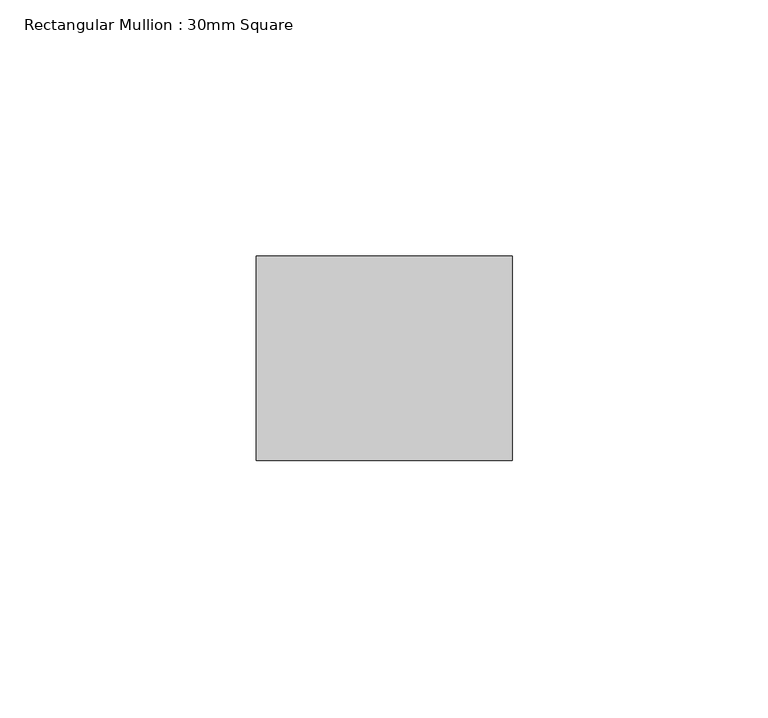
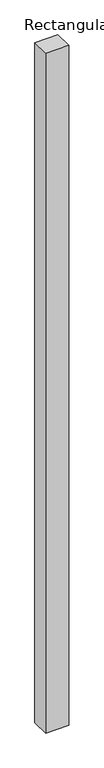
"""IFC4 building model written with IfcOpenShell, lengths in millimetres: member geometry, Rectangular Mullion : 30mm Square."""

import ifcopenshell
import ifcopenshell.guid

model = None  # the IFC model being written
_history = None  # IfcOwnerHistory: only IFC2X3 demands one
_inside = {}  # id of a spatial element -> (the spatial element, [elements in it])
_under = {}  # id of a project, library or spatial element -> (it, [spatial elements below it])
_declared = {}  # id of a project -> (the project, [libraries it declares])
_typed = {}  # id of a type object -> (the type object, [elements of that type])
_made_of = {}  # id of a material, layer set ... -> (it, [elements and type objects made of it])


def new_model(schema):
    """Start an empty IFC model of exactly this schema.

    Asked for "IFC4X3", IfcOpenShell would pick the latest addendum, in which some entities
    have other attributes; the version numbers below select the first issue.
    IFC2X3 requires an IfcOwnerHistory on every rooted entity: one is made here for all.
    """
    global model, _history
    if schema == "IFC4X3":
        model = ifcopenshell.file(schema_version=(4, 3, 0, 0))
    else:
        model = ifcopenshell.file(schema=schema)
    _inside.clear()
    _under.clear()
    _declared.clear()
    _typed.clear()
    _made_of.clear()
    _history = None
    if model.schema == "IFC2X3":
        org = make("IfcOrganization", Name="unknown")
        user = make(
            "IfcPersonAndOrganization",
            ThePerson=make("IfcPerson", FamilyName="unknown"),
            TheOrganization=org,
        )
        app = make(
            "IfcApplication",
            ApplicationDeveloper=org,
            Version="unknown",
            ApplicationFullName="unknown",
            ApplicationIdentifier="unknown",
        )
        _history = make(
            "IfcOwnerHistory",
            OwningUser=user,
            OwningApplication=app,
            ChangeAction="ADDED",
            CreationDate=0,
        )
    return model


def make(cls, **values):
    """One entity of the class cls with the attributes given. An attribute that is None is left unset."""
    return model.create_entity(
        cls, **{name: value for name, value in values.items() if value is not None}
    )


def rooted(cls, **values):
    """An entity with a GlobalId (a new one), such as an element, a storey or a relation."""
    return make(cls, GlobalId=ifcopenshell.guid.new(), OwnerHistory=_history, **values)


def si_unit(unit_type, name, prefix=None):
    """IfcSIUnit, for example si_unit("LENGTHUNIT", "METRE", prefix="MILLI")."""
    return make("IfcSIUnit", UnitType=unit_type, Prefix=prefix, Name=name)


def assignment(units):
    """IfcUnitAssignment: the units of a project."""
    return None if units is None else make("IfcUnitAssignment", Units=units)


def point(xyz):
    """IfcCartesianPoint."""
    return None if xyz is None else make("IfcCartesianPoint", Coordinates=xyz)


def direction(xyz):
    """IfcDirection."""
    return None if xyz is None else make("IfcDirection", DirectionRatios=xyz)


def frame(location, z_axis=None, x_axis=None):
    """IfcAxis2Placement3D, a coordinate frame: its origin and axes. An axis left out is left unset."""
    return make(
        "IfcAxis2Placement3D",
        Location=point(location),
        Axis=direction(z_axis),
        RefDirection=direction(x_axis),
    )


def origin():
    """The frame at (0, 0, 0) with its axes left unset."""
    return frame((0.0, 0.0, 0.0))


def place(relative_to, where):
    """IfcLocalPlacement: puts the frame where relative to a parent placement (None: the world)."""
    return make(
        "IfcLocalPlacement", PlacementRelTo=relative_to, RelativePlacement=where
    )


def context(
    kind, dimensions, precision=None, world=None, true_north=None, identifier=None
):
    """IfcGeometricRepresentationContext, for example the 3D "Model" context."""
    return make(
        "IfcGeometricRepresentationContext",
        ContextIdentifier=identifier,
        ContextType=kind,
        CoordinateSpaceDimension=dimensions,
        Precision=precision,
        WorldCoordinateSystem=world,
        TrueNorth=true_north,
    )


def project(units=None, contexts=None):
    """IfcProject with its units and contexts."""
    return rooted(
        "IfcProject",
        Name="project",
        RepresentationContexts=contexts,
        UnitsInContext=assignment(units),
    )


def spatial(cls, under=None, at=None, **own):
    """A site, building, storey or space (cls), placed at a placement, below another one or the project."""
    s = rooted(cls, ObjectPlacement=at, **own)
    if under is not None:
        _under.setdefault(under.id(), (under, []))[1].append(s)
    return s


def polyline(points):
    """IfcPolyline through the points."""
    return make("IfcPolyline", Points=[point(p) for p in points])


def outline(outer, holes=None, kind="AREA"):
    """IfcArbitraryClosedProfileDef: a profile drawn as a closed curve; with holes, ...WithVoids."""
    if holes is None:
        return make("IfcArbitraryClosedProfileDef", ProfileType=kind, OuterCurve=outer)
    return make(
        "IfcArbitraryProfileDefWithVoids",
        ProfileType=kind,
        OuterCurve=outer,
        InnerCurves=holes,
    )


def extrude(swept, where, along, depth):
    """IfcExtrudedAreaSolid: the profile swept, set in the frame where, extruded along a direction by depth."""
    return make(
        "IfcExtrudedAreaSolid",
        SweptArea=swept,
        Position=where,
        ExtrudedDirection=direction(along),
        Depth=depth,
    )


def shape(context_of_items, identifier, shape_type, items):
    """IfcShapeRepresentation: the items that make up one representation, for example the "Body"."""
    return make(
        "IfcShapeRepresentation",
        ContextOfItems=context_of_items,
        RepresentationIdentifier=identifier,
        RepresentationType=shape_type,
        Items=items,
    )


def source(mapping_origin, context_of_items, identifier, shape_type, items):
    """IfcRepresentationMap: a shape defined once, which mapped items show again and again."""
    return make(
        "IfcRepresentationMap",
        MappingOrigin=mapping_origin,
        MappedRepresentation=shape(context_of_items, identifier, shape_type, items),
    )


def transform(
    local_origin,
    x_axis=None,
    y_axis=None,
    z_axis=None,
    scale=None,
    scale2=None,
    scale3=None,
    uniform=True,
):
    """IfcCartesianTransformationOperator3D, or its non-uniform kind. x_axis, y_axis, z_axis: its Axis1, 2, 3."""
    if uniform:
        return make(
            "IfcCartesianTransformationOperator3D",
            Axis1=direction(x_axis),
            Axis2=direction(y_axis),
            LocalOrigin=point(local_origin),
            Scale=scale,
            Axis3=direction(z_axis),
        )
    return make(
        "IfcCartesianTransformationOperator3DnonUniform",
        Axis1=direction(x_axis),
        Axis2=direction(y_axis),
        LocalOrigin=point(local_origin),
        Scale=scale,
        Axis3=direction(z_axis),
        Scale2=scale2,
        Scale3=scale3,
    )


def mapped(mapping_source, mapping_target):
    """IfcMappedItem: shows the shape of a source again, moved by a transform."""
    return make(
        "IfcMappedItem", MappingSource=mapping_source, MappingTarget=mapping_target
    )


def made_of(thing, what):
    """Note that an element or type object is made of a material, layer set ...; save() writes the relation."""
    if what is not None:
        _made_of.setdefault(what.id(), (what, []))[1].append(thing)
    return thing


def element(
    cls,
    number,
    at=None,
    inside=None,
    cuts=None,
    type_object=None,
    material=None,
    context=None,
    identifier="Body",
    shape_type=None,
    held_by="IfcProductDefinitionShape",
    body=None,
    shapes=None,
    **own,
):
    """One element of the class cls, such as IfcWall. Its Tag is "e" and its number.

    at: its placement. inside: the storey or other place that contains it. cuts: it is an
    opening in that element (IfcRelVoidsElement). A single representation is given by context,
    identifier, shape_type and body (its items); several are given by shapes. held_by: the class
    of the entity that holds the representations. save() writes the other relations.
    """
    e = rooted(cls, Tag="e%d" % number, ObjectPlacement=at, **own)
    if body is not None:
        shapes = [shape(context, identifier, shape_type, body)]
    if shapes is not None:
        e.Representation = make(held_by, Representations=shapes)
    if inside is not None:
        _inside.setdefault(inside.id(), (inside, []))[1].append(e)
    if cuts is not None:
        rooted(
            "IfcRelVoidsElement", RelatingBuildingElement=cuts, RelatedOpeningElement=e
        )
    if type_object is not None:
        _typed.setdefault(type_object.id(), (type_object, []))[1].append(e)
    return made_of(e, material)


def aggregate(whole, parts):
    """IfcRelAggregates: a whole, such as a stair, and the parts it consists of."""
    return rooted("IfcRelAggregates", RelatingObject=whole, RelatedObjects=parts)


def save(model, path):
    """Write the relations noted so far, then the file.

    IfcRelAggregates (storeys below a building ...), IfcRelContainedInSpatialStructure (elements
    in a storey), IfcRelDefinesByType, IfcRelAssociatesMaterial and IfcRelDeclares: one each for
    every whole, place, type object, material and project.
    """
    for whole, parts in _under.values():
        aggregate(whole, parts)
    for where, things in _inside.values():
        rooted(
            "IfcRelContainedInSpatialStructure",
            RelatedElements=things,
            RelatingStructure=where,
        )
    for kind, things in _typed.values():
        rooted("IfcRelDefinesByType", RelatedObjects=things, RelatingType=kind)
    for what, things in _made_of.values():
        rooted("IfcRelAssociatesMaterial", RelatedObjects=things, RelatingMaterial=what)
    for by, libraries in _declared.values():
        rooted("IfcRelDeclares", RelatingContext=by, RelatedDefinitions=libraries)
    model.write(path)


def rectangular_mullion_30mm_square_df6db07c(model_context):
    return source(origin(), model_context, "Body", "SweptSolid", [
        extrude(outline(polyline([(25.0, 20.0), (25.0, -20.0), (-25.0, -20.0), (-25.0, 20.0), (25.0, 20.0)])), frame((0.0, 0.0, -1560.0), z_axis=(0.0, 0.0, 1.0), x_axis=(1.0, 0.0, 0.0)), (0.0, 0.0, 1.0), 1560.0),
    ])


if __name__ == "__main__":
    model = new_model("IFC4")
    model_context = context("Model", 3, world=origin())
    ifc_project = project(units=[si_unit("LENGTHUNIT", "METRE", prefix="MILLI")], contexts=[model_context])
    site = spatial("IfcSite", under=ifc_project)
    building = spatial("IfcBuilding", under=site)
    placement = place(None, origin())
    rectangular_mullion_30mm_square_shape = rectangular_mullion_30mm_square_df6db07c(model_context)
    element("IfcMember", 1, ObjectType="Rectangular Mullion : 30mm Square", at=placement, inside=building, context=model_context, shape_type="MappedRepresentation", body=[
        mapped(rectangular_mullion_30mm_square_shape, transform((0.0, 0.0, 0.0), x_axis=(1.0, 0.0, 0.0), y_axis=(0.0, 1.0, 0.0), z_axis=(0.0, 0.0, 1.0))),
    ])
    save(model, "model.ifc")
